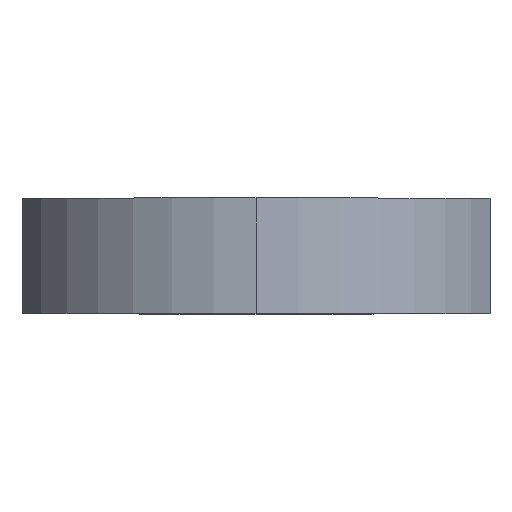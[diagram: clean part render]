
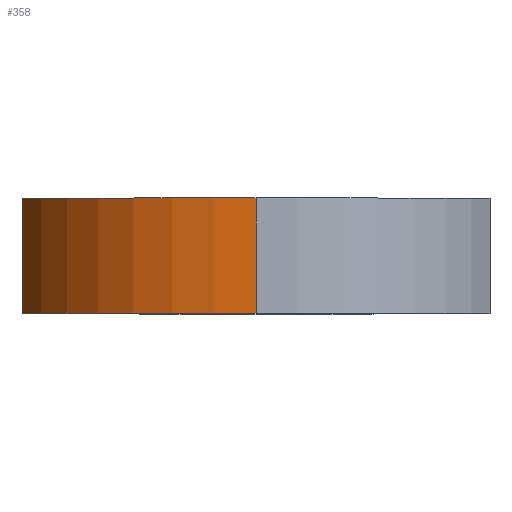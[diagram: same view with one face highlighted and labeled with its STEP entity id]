
A CAD part, top view. The second image highlights one B-rep face of the part: STEP entity #358.
In plain terms, the highlighted cylindrical face has radius 20 mm (diameter 40 mm), a partial arc.
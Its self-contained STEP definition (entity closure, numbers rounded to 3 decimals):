
#73 = PLANE('',#74);
#74 = AXIS2_PLACEMENT_3D('',#75,#76,#77);
#75 = CARTESIAN_POINT('',(0.,9.113,0.));
#76 = DIRECTION('',(0.,1.,0.));
#77 = DIRECTION('',(0.,-0.,1.));
#358 = ADVANCED_FACE('',(#359),#374,.T.);
#359 = FACE_BOUND('',#360,.T.);
#360 = EDGE_LOOP('',(#361,#397,#425,#449));
#361 = ORIENTED_EDGE('',*,*,#362,.T.);
#362 = EDGE_CURVE('',#363,#365,#367,.T.);
#363 = VERTEX_POINT('',#364);
#364 = CARTESIAN_POINT('',(-18.5,0.,7.599));
#365 = VERTEX_POINT('',#366);
#366 = CARTESIAN_POINT('',(0.,0.,20.));
#367 = SURFACE_CURVE('',#368,(#373,#385),.PCURVE_S1.);
#368 = CIRCLE('',#369,20.);
#369 = AXIS2_PLACEMENT_3D('',#370,#371,#372);
#370 = CARTESIAN_POINT('',(0.,0.,0.));
#371 = DIRECTION('',(0.,1.,0.));
#372 = DIRECTION('',(0.,-0.,1.));
#373 = PCURVE('',#374,#379);
#374 = CYLINDRICAL_SURFACE('',#375,20.);
#375 = AXIS2_PLACEMENT_3D('',#376,#377,#378);
#376 = CARTESIAN_POINT('',(0.,0.,0.));
#377 = DIRECTION('',(0.,1.,0.));
#378 = DIRECTION('',(0.,-0.,1.));
#379 = DEFINITIONAL_REPRESENTATION('',(#380),#384);
#380 = LINE('',#381,#382);
#381 = CARTESIAN_POINT('',(0.,0.));
#382 = VECTOR('',#383,1.);
#383 = DIRECTION('',(1.,0.));
#384 = ( GEOMETRIC_REPRESENTATION_CONTEXT(2) 
PARAMETRIC_REPRESENTATION_CONTEXT() REPRESENTATION_CONTEXT('2D SPACE',''
  ) );
#385 = PCURVE('',#386,#391);
#386 = PLANE('',#387);
#387 = AXIS2_PLACEMENT_3D('',#388,#389,#390);
#388 = CARTESIAN_POINT('',(0.,0.,0.));
#389 = DIRECTION('',(0.,1.,0.));
#390 = DIRECTION('',(0.,-0.,1.));
#391 = DEFINITIONAL_REPRESENTATION('',(#392),#396);
#392 = CIRCLE('',#393,20.);
#393 = AXIS2_PLACEMENT_2D('',#394,#395);
#394 = CARTESIAN_POINT('',(0.,0.));
#395 = DIRECTION('',(1.,0.));
#396 = ( GEOMETRIC_REPRESENTATION_CONTEXT(2) 
PARAMETRIC_REPRESENTATION_CONTEXT() REPRESENTATION_CONTEXT('2D SPACE',''
  ) );
#397 = ORIENTED_EDGE('',*,*,#398,.T.);
#398 = EDGE_CURVE('',#365,#399,#401,.T.);
#399 = VERTEX_POINT('',#400);
#400 = CARTESIAN_POINT('',(0.,9.113,20.));
#401 = SURFACE_CURVE('',#402,(#406,#413),.PCURVE_S1.);
#402 = LINE('',#403,#404);
#403 = CARTESIAN_POINT('',(0.,0.,20.));
#404 = VECTOR('',#405,1.);
#405 = DIRECTION('',(0.,1.,0.));
#406 = PCURVE('',#374,#407);
#407 = DEFINITIONAL_REPRESENTATION('',(#408),#412);
#408 = LINE('',#409,#410);
#409 = CARTESIAN_POINT('',(6.283,0.));
#410 = VECTOR('',#411,1.);
#411 = DIRECTION('',(0.,1.));
#412 = ( GEOMETRIC_REPRESENTATION_CONTEXT(2) 
PARAMETRIC_REPRESENTATION_CONTEXT() REPRESENTATION_CONTEXT('2D SPACE',''
  ) );
#413 = PCURVE('',#414,#419);
#414 = CYLINDRICAL_SURFACE('',#415,20.);
#415 = AXIS2_PLACEMENT_3D('',#416,#417,#418);
#416 = CARTESIAN_POINT('',(0.,0.,0.));
#417 = DIRECTION('',(0.,1.,0.));
#418 = DIRECTION('',(0.,-0.,1.));
#419 = DEFINITIONAL_REPRESENTATION('',(#420),#424);
#420 = LINE('',#421,#422);
#421 = CARTESIAN_POINT('',(0.,0.));
#422 = VECTOR('',#423,1.);
#423 = DIRECTION('',(0.,1.));
#424 = ( GEOMETRIC_REPRESENTATION_CONTEXT(2) 
PARAMETRIC_REPRESENTATION_CONTEXT() REPRESENTATION_CONTEXT('2D SPACE',''
  ) );
#425 = ORIENTED_EDGE('',*,*,#426,.F.);
#426 = EDGE_CURVE('',#427,#399,#429,.T.);
#427 = VERTEX_POINT('',#428);
#428 = CARTESIAN_POINT('',(-18.5,9.113,7.599));
#429 = SURFACE_CURVE('',#430,(#435,#442),.PCURVE_S1.);
#430 = CIRCLE('',#431,20.);
#431 = AXIS2_PLACEMENT_3D('',#432,#433,#434);
#432 = CARTESIAN_POINT('',(0.,9.113,0.));
#433 = DIRECTION('',(0.,1.,0.));
#434 = DIRECTION('',(0.,-0.,1.));
#435 = PCURVE('',#374,#436);
#436 = DEFINITIONAL_REPRESENTATION('',(#437),#441);
#437 = LINE('',#438,#439);
#438 = CARTESIAN_POINT('',(0.,9.113));
#439 = VECTOR('',#440,1.);
#440 = DIRECTION('',(1.,0.));
#441 = ( GEOMETRIC_REPRESENTATION_CONTEXT(2) 
PARAMETRIC_REPRESENTATION_CONTEXT() REPRESENTATION_CONTEXT('2D SPACE',''
  ) );
#442 = PCURVE('',#73,#443);
#443 = DEFINITIONAL_REPRESENTATION('',(#444),#448);
#444 = CIRCLE('',#445,20.);
#445 = AXIS2_PLACEMENT_2D('',#446,#447);
#446 = CARTESIAN_POINT('',(0.,0.));
#447 = DIRECTION('',(1.,0.));
#448 = ( GEOMETRIC_REPRESENTATION_CONTEXT(2) 
PARAMETRIC_REPRESENTATION_CONTEXT() REPRESENTATION_CONTEXT('2D SPACE',''
  ) );
#449 = ORIENTED_EDGE('',*,*,#450,.F.);
#450 = EDGE_CURVE('',#363,#427,#451,.T.);
#451 = SURFACE_CURVE('',#452,(#456,#463),.PCURVE_S1.);
#452 = LINE('',#453,#454);
#453 = CARTESIAN_POINT('',(-18.5,0.,7.599));
#454 = VECTOR('',#455,1.);
#455 = DIRECTION('',(0.,1.,0.));
#456 = PCURVE('',#374,#457);
#457 = DEFINITIONAL_REPRESENTATION('',(#458),#462);
#458 = LINE('',#459,#460);
#459 = CARTESIAN_POINT('',(5.102,0.));
#460 = VECTOR('',#461,1.);
#461 = DIRECTION('',(0.,1.));
#462 = ( GEOMETRIC_REPRESENTATION_CONTEXT(2) 
PARAMETRIC_REPRESENTATION_CONTEXT() REPRESENTATION_CONTEXT('2D SPACE',''
  ) );
#463 = PCURVE('',#464,#469);
#464 = PLANE('',#465);
#465 = AXIS2_PLACEMENT_3D('',#466,#467,#468);
#466 = CARTESIAN_POINT('',(-18.5,0.,0.));
#467 = DIRECTION('',(-1.,0.,0.));
#468 = DIRECTION('',(0.,0.,1.));
#469 = DEFINITIONAL_REPRESENTATION('',(#470),#474);
#470 = LINE('',#471,#472);
#471 = CARTESIAN_POINT('',(7.599,0.));
#472 = VECTOR('',#473,1.);
#473 = DIRECTION('',(0.,1.));
#474 = ( GEOMETRIC_REPRESENTATION_CONTEXT(2) 
PARAMETRIC_REPRESENTATION_CONTEXT() REPRESENTATION_CONTEXT('2D SPACE',''
  ) );
